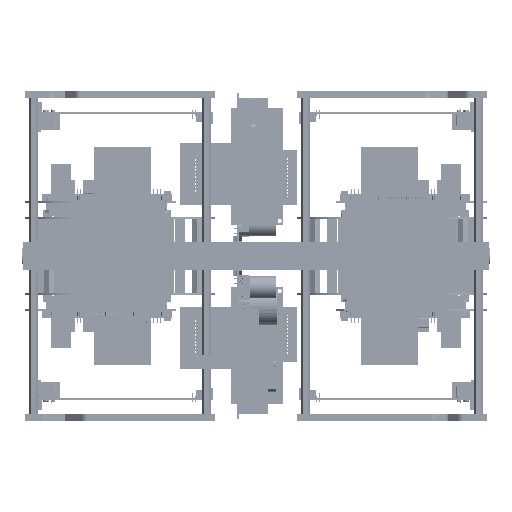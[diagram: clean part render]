
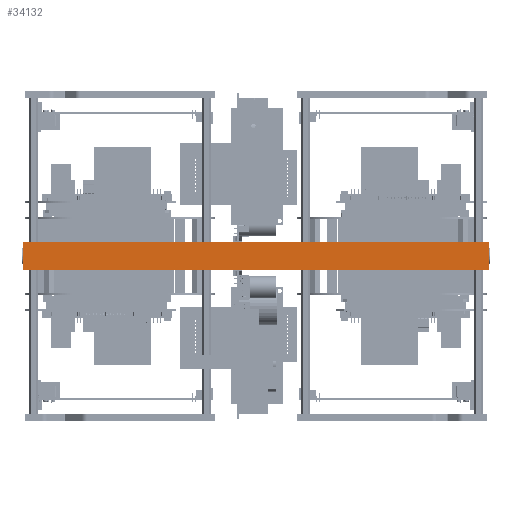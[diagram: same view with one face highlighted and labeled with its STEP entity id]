
A CAD part, left-side view. The second image highlights one B-rep face of the part: STEP entity #34132.
In plain terms, the highlighted planar face has unit normal (-1, 0, 0).
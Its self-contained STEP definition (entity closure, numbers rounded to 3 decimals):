
#34132 = ADVANCED_FACE( '', ( #69598 ), #69599, .F. );
#69598 = FACE_OUTER_BOUND( '', #125179, .T. );
#69599 = PLANE( '', #125180 );
#125179 = EDGE_LOOP( '', ( #206942, #206943, #206944, #206945 ) );
#125180 = AXIS2_PLACEMENT_3D( '', #206946, #206947, #206948 );
#206942 = ORIENTED_EDGE( '', *, *, #276419, .T. );
#206943 = ORIENTED_EDGE( '', *, *, #269310, .F. );
#206944 = ORIENTED_EDGE( '', *, *, #272515, .F. );
#206945 = ORIENTED_EDGE( '', *, *, #258973, .F. );
#206946 = CARTESIAN_POINT( '', ( -90., 395.127, -10. ) );
#206947 = DIRECTION( '', ( 1., 0., 0. ) );
#206948 = DIRECTION( '', ( 0., 0., -1. ) );
#258973 = EDGE_CURVE( '', #331003, #331005, #331006, .T. );
#269310 = EDGE_CURVE( '', #347800, #347801, #347802, .T. );
#272515 = EDGE_CURVE( '', #331005, #347800, #352344, .T. );
#276419 = EDGE_CURVE( '', #331003, #347801, #357792, .T. );
#331003 = VERTEX_POINT( '', #389106 );
#331005 = VERTEX_POINT( '', #389109 );
#331006 = LINE( '', #389110, #389111 );
#347800 = VERTEX_POINT( '', #421219 );
#347801 = VERTEX_POINT( '', #421220 );
#347802 = LINE( '', #421221, #421222 );
#352344 = LINE( '', #430686, #430687 );
#357792 = LINE( '', #441477, #441478 );
#389106 = CARTESIAN_POINT( '', ( -90., 339., -10. ) );
#389109 = CARTESIAN_POINT( '', ( -90., 339., 10. ) );
#389110 = CARTESIAN_POINT( '', ( -90., 339., 0. ) );
#389111 = VECTOR( '', #485415, 1000. );
#421219 = CARTESIAN_POINT( '', ( -90., 0., 10. ) );
#421220 = CARTESIAN_POINT( '', ( -90., 0., -10. ) );
#421221 = CARTESIAN_POINT( '', ( -90., 0., 0. ) );
#421222 = VECTOR( '', #495496, 1000. );
#430686 = CARTESIAN_POINT( '', ( -90., 395.127, 10. ) );
#430687 = VECTOR( '', #498172, 1000. );
#441477 = CARTESIAN_POINT( '', ( -90., 395.127, -10. ) );
#441478 = VECTOR( '', #501251, 1000. );
#485415 = DIRECTION( '', ( 0., 0., 1. ) );
#495496 = DIRECTION( '', ( 0., 0., -1. ) );
#498172 = DIRECTION( '', ( 0., -1., 0. ) );
#501251 = DIRECTION( '', ( 0., -1., 0. ) );
